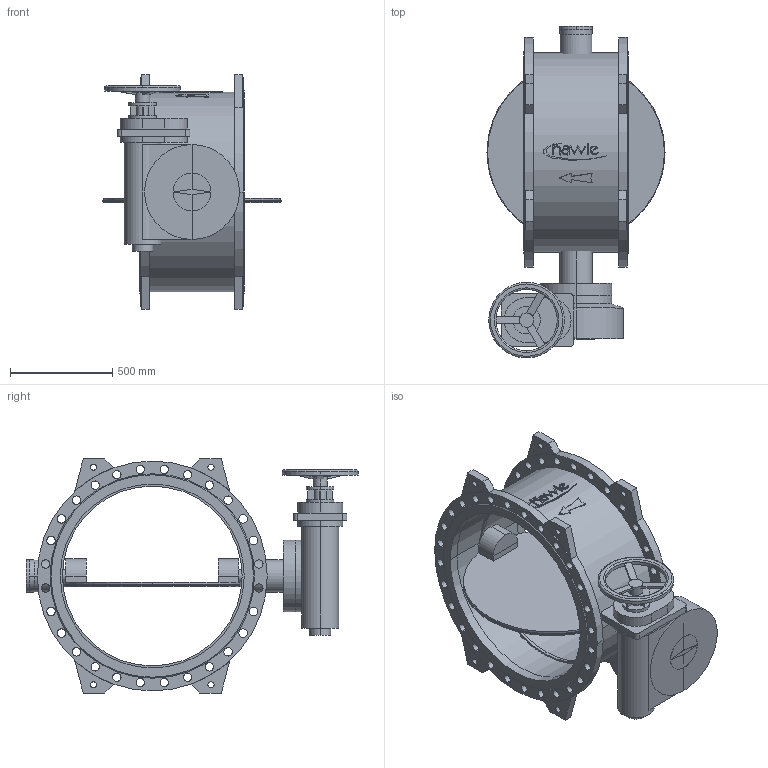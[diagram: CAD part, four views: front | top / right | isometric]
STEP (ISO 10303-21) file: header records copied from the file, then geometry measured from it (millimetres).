
FILE_DESCRIPTION(('STEP AP214'),'1');
FILE_NAME('S:/EK/USER/CAT6/3DHomepage_27-04-2012/neu_08-01-2013/9881K/9881K_PN16_DN900_7800.STP','2013-03-11T15:51:14',(' '),(' '),'Spatial InterOp 3D',' ',' ');
FILE_SCHEMA(('automotive_design'));
Length unit declared in the file: millimetre
Products named in the file (53): 3D-Objekt
Bounding box: 872 x 1625 x 1146 mm (x, y, z)
Volume: 179415722.1 mm3; surface area: 10358513.4 mm2
Topology: 53 solids, 53 shells, 491 faces, 1148 edges, 766 vertices
Faces by surface type: cylinder 249, plane 230, cone 8, torus 4
Entity records: 19703 total; most frequent: DIRECTION 2780, CARTESIAN_POINT 2458, ORIENTED_EDGE 2296, EDGE_CURVE 1148, AXIS2_PLACEMENT_3D 1088, VERTEX_POINT 766, EDGE_LOOP 640, LINE 604
